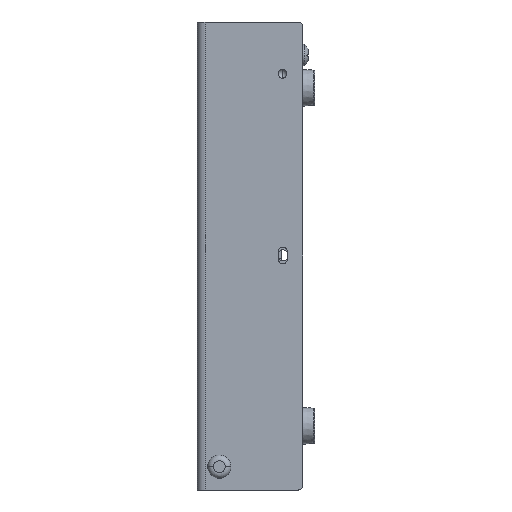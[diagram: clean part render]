
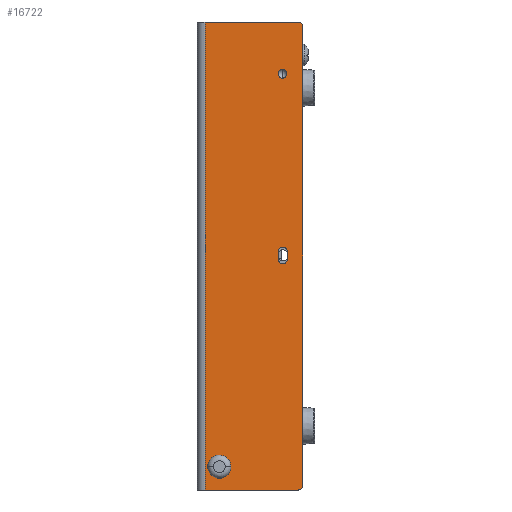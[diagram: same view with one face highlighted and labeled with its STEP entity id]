
A CAD part, left-side view. The second image highlights one B-rep face of the part: STEP entity #16722.
In plain terms, the highlighted planar face has unit normal (-1, 0, 0).
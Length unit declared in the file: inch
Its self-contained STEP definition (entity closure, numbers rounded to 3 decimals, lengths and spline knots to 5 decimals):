
#4420=DIRECTION('',(0.,0.,-1.));
#4421=VECTOR('',#4420,7.06);
#4422=CARTESIAN_POINT('',(-2.936,-0.08,3.53));
#4423=LINE('',#4422,#4421);
#4438=DIRECTION('',(0.,0.,1.));
#4439=VECTOR('',#4438,6.92);
#4440=CARTESIAN_POINT('',(-2.936,-1.554,-3.46));
#4441=LINE('',#4440,#4439);
#4442=DIRECTION('',(0.,-1.,0.));
#4443=VECTOR('',#4442,1.404);
#4444=CARTESIAN_POINT('',(-2.936,-0.08,-3.53));
#4445=LINE('',#4444,#4443);
#4446=DIRECTION('',(0.,1.,0.));
#4447=VECTOR('',#4446,1.404);
#4448=CARTESIAN_POINT('',(-2.936,-1.484,3.53));
#4449=LINE('',#4448,#4447);
#4450=DIRECTION('',(0.,0.,-1.));
#4451=VECTOR('',#4450,0.11);
#4452=CARTESIAN_POINT('',(-2.936,-1.184,0.065));
#4453=LINE('',#4452,#4451);
#4454=CARTESIAN_POINT('',(-2.936,-1.254,-0.045));
#4455=DIRECTION('',(1.,0.,0.));
#4456=DIRECTION('',(0.,-1.,0.));
#4457=AXIS2_PLACEMENT_3D('',#4454,#4455,#4456);
#4459=DIRECTION('',(0.,0.,1.));
#4460=VECTOR('',#4459,0.11);
#4461=CARTESIAN_POINT('',(-2.936,-1.324,-0.045));
#4462=LINE('',#4461,#4460);
#4463=CARTESIAN_POINT('',(-2.936,-1.254,0.065));
#4464=DIRECTION('',(1.,0.,0.));
#4465=DIRECTION('',(0.,1.,0.));
#4466=AXIS2_PLACEMENT_3D('',#4463,#4464,#4465);
#4468=CARTESIAN_POINT('',(-2.936,-1.248,2.75));
#4469=DIRECTION('',(-1.,0.,0.));
#4470=DIRECTION('',(0.,0.,-1.));
#4471=AXIS2_PLACEMENT_3D('',#4468,#4469,#4470);
#4473=CARTESIAN_POINT('',(-2.936,-1.248,2.75));
#4474=DIRECTION('',(-1.,0.,0.));
#4475=DIRECTION('',(0.,0.,1.));
#4476=AXIS2_PLACEMENT_3D('',#4473,#4474,#4475);
#4478=CARTESIAN_POINT('',(-2.936,-0.294,-3.18));
#4479=DIRECTION('',(1.,0.,0.));
#4480=DIRECTION('',(0.,-1.,0.));
#4481=AXIS2_PLACEMENT_3D('',#4478,#4479,#4480);
#4483=CARTESIAN_POINT('',(-2.936,-0.294,-3.18));
#4484=DIRECTION('',(1.,0.,0.));
#4485=DIRECTION('',(0.,1.,0.));
#4486=AXIS2_PLACEMENT_3D('',#4483,#4484,#4485);
#4501=CARTESIAN_POINT('',(-2.936,-1.484,3.46));
#4502=DIRECTION('',(-1.,0.,0.));
#4503=DIRECTION('',(0.,-1.,0.));
#4504=AXIS2_PLACEMENT_3D('',#4501,#4502,#4503);
#4607=CARTESIAN_POINT('',(-2.936,-1.484,-3.46));
#4608=DIRECTION('',(-1.,0.,0.));
#4609=DIRECTION('',(0.,0.,-1.));
#4610=AXIS2_PLACEMENT_3D('',#4607,#4608,#4609);
#8175=CARTESIAN_POINT('',(-2.936,-0.08,3.53));
#8176=CARTESIAN_POINT('',(-2.936,-0.08,-3.53));
#8177=VERTEX_POINT('',#8175);
#8178=VERTEX_POINT('',#8176);
#8207=CARTESIAN_POINT('',(-2.936,-1.184,0.065));
#8208=CARTESIAN_POINT('',(-2.936,-1.184,-0.045));
#8209=VERTEX_POINT('',#8207);
#8210=VERTEX_POINT('',#8208);
#8211=CARTESIAN_POINT('',(-2.936,-1.324,-0.045));
#8212=VERTEX_POINT('',#8211);
#8213=CARTESIAN_POINT('',(-2.936,-1.324,0.065));
#8214=VERTEX_POINT('',#8213);
#8241=CARTESIAN_POINT('',(-2.936,-1.248,2.68367));
#8242=CARTESIAN_POINT('',(-2.936,-1.248,2.81633));
#8243=VERTEX_POINT('',#8241);
#8244=VERTEX_POINT('',#8242);
#8252=CARTESIAN_POINT('',(-2.936,-1.484,3.53));
#8254=VERTEX_POINT('',#8252);
#8257=CARTESIAN_POINT('',(-2.936,-1.554,3.46));
#8258=VERTEX_POINT('',#8257);
#8260=CARTESIAN_POINT('',(-2.936,-1.554,-3.46));
#8262=VERTEX_POINT('',#8260);
#8265=CARTESIAN_POINT('',(-2.936,-1.484,-3.53));
#8266=VERTEX_POINT('',#8265);
#8389=CARTESIAN_POINT('',(-2.936,-0.471,-3.18));
#8390=CARTESIAN_POINT('',(-2.936,-0.117,-3.18));
#8391=VERTEX_POINT('',#8389);
#8392=VERTEX_POINT('',#8390);
#16682=CARTESIAN_POINT('',(-2.936,0.036,1.85254));
#16683=DIRECTION('',(-1.,0.,0.));
#16684=DIRECTION('',(0.,0.,1.));
#16685=AXIS2_PLACEMENT_3D('',#16682,#16683,#16684);
#16686=PLANE('',#16685);
#16688=ORIENTED_EDGE('',*,*,#16687,.F.);
#16690=ORIENTED_EDGE('',*,*,#16689,.F.);
#16692=ORIENTED_EDGE('',*,*,#16691,.F.);
#16694=ORIENTED_EDGE('',*,*,#16693,.F.);
#16695=ORIENTED_EDGE('',*,*,#16672,.F.);
#16697=ORIENTED_EDGE('',*,*,#16696,.F.);
#16698=EDGE_LOOP('',(#16688,#16690,#16692,#16694,#16695,#16697));
#16699=FACE_OUTER_BOUND('',#16698,.F.);
#16701=ORIENTED_EDGE('',*,*,#16700,.T.);
#16703=ORIENTED_EDGE('',*,*,#16702,.F.);
#16705=ORIENTED_EDGE('',*,*,#16704,.T.);
#16707=ORIENTED_EDGE('',*,*,#16706,.F.);
#16708=EDGE_LOOP('',(#16701,#16703,#16705,#16707));
#16709=FACE_BOUND('',#16708,.F.);
#16711=ORIENTED_EDGE('',*,*,#16710,.T.);
#16713=ORIENTED_EDGE('',*,*,#16712,.T.);
#16714=EDGE_LOOP('',(#16711,#16713));
#16715=FACE_BOUND('',#16714,.F.);
#16717=ORIENTED_EDGE('',*,*,#16716,.F.);
#16719=ORIENTED_EDGE('',*,*,#16718,.F.);
#16720=EDGE_LOOP('',(#16717,#16719));
#16721=FACE_BOUND('',#16720,.F.);
#16722=ADVANCED_FACE('',(#16699,#16709,#16715,#16721),#16686,.T.);
#4458=CIRCLE('',#4457,0.07);
#4467=CIRCLE('',#4466,0.07);
#4472=CIRCLE('',#4471,0.06633);
#4477=CIRCLE('',#4476,0.06633);
#4482=CIRCLE('',#4481,0.177);
#4487=CIRCLE('',#4486,0.177);
#4505=CIRCLE('',#4504,0.07);
#4611=CIRCLE('',#4610,0.07);
#16672=EDGE_CURVE('',#8177,#8178,#4423,.T.);
#16687=EDGE_CURVE('',#8258,#8254,#4505,.T.);
#16689=EDGE_CURVE('',#8262,#8258,#4441,.T.);
#16691=EDGE_CURVE('',#8266,#8262,#4611,.T.);
#16693=EDGE_CURVE('',#8178,#8266,#4445,.T.);
#16696=EDGE_CURVE('',#8254,#8177,#4449,.T.);
#16700=EDGE_CURVE('',#8209,#8210,#4453,.T.);
#16702=EDGE_CURVE('',#8212,#8210,#4458,.T.);
#16704=EDGE_CURVE('',#8212,#8214,#4462,.T.);
#16706=EDGE_CURVE('',#8209,#8214,#4467,.T.);
#16710=EDGE_CURVE('',#8243,#8244,#4472,.T.);
#16712=EDGE_CURVE('',#8244,#8243,#4477,.T.);
#16716=EDGE_CURVE('',#8391,#8392,#4482,.T.);
#16718=EDGE_CURVE('',#8392,#8391,#4487,.T.);
